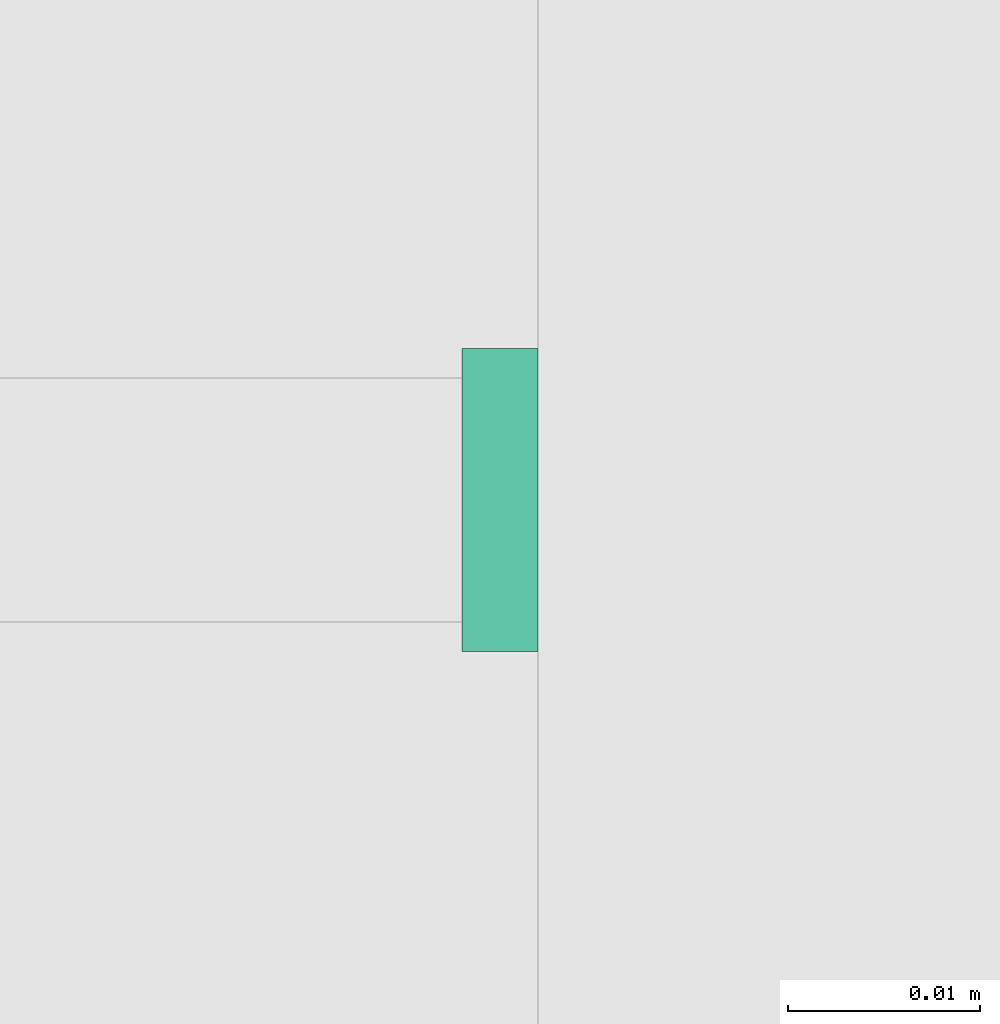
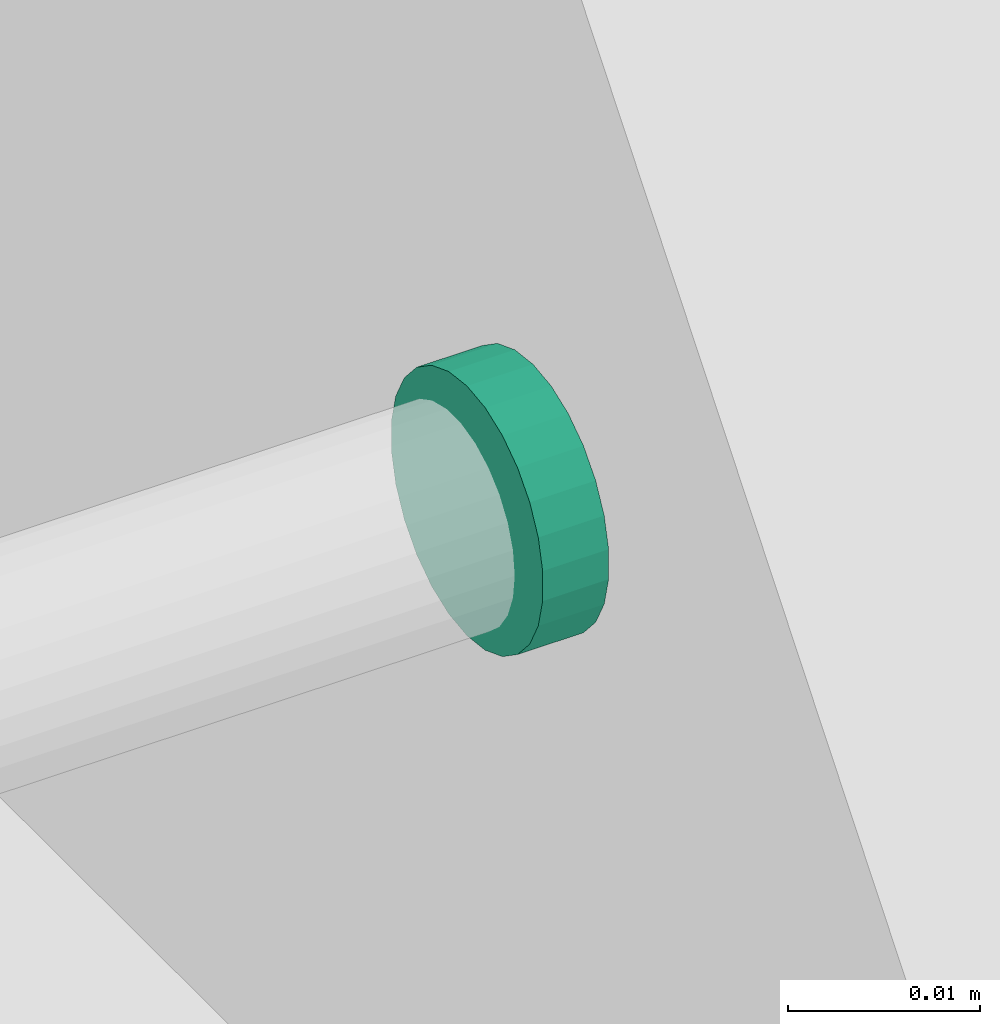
# One storey, part 10 of 24: 1 flow fitting.
"""IFC2X3 building model written with IfcOpenShell, lengths in millimetres."""

from ifc_helpers import new_model, entity, si_unit, converted_unit, derived_unit, direction, frame, origin, origin_2d_with_axis, place, context, subcontext, project, spatial, circle, extrude, source, transform, mapped, material, type_object, type_shapes, element, save


model = new_model("IFC2X3")

# Units and contexts
model_context = context("Model", 3, precision=0.01, world=origin(), true_north=direction((6.123031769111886e-17, 1.0)))
body_context = subcontext(model_context, "Body", "Model", "MODEL_VIEW")
ifc_project = project(units=[si_unit("LENGTHUNIT", "METRE", prefix="MILLI"), si_unit("AREAUNIT", "SQUARE_METRE"), si_unit("VOLUMEUNIT", "CUBIC_METRE"), converted_unit("PLANEANGLEUNIT", "DEGREE", entity("IfcRatioMeasure", 0.017453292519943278), si_unit("PLANEANGLEUNIT", "RADIAN"), dimensions=[0, 0, 0, 0, 0, 0, 0]), si_unit("MASSUNIT", "GRAM", prefix="KILO"), derived_unit("MASSDENSITYUNIT", [(si_unit("MASSUNIT", "GRAM", prefix="KILO"), 1), (si_unit("LENGTHUNIT", "METRE"), -3)]), derived_unit("MOMENTOFINERTIAUNIT", [(si_unit("LENGTHUNIT", "METRE"), 4)]), si_unit("TIMEUNIT", "SECOND"), si_unit("FREQUENCYUNIT", "HERTZ"), si_unit("THERMODYNAMICTEMPERATUREUNIT", "DEGREE_CELSIUS"), derived_unit("THERMALTRANSMITTANCEUNIT", [(si_unit("MASSUNIT", "GRAM", prefix="KILO"), 1), (si_unit("THERMODYNAMICTEMPERATUREUNIT", "KELVIN"), -1), (si_unit("TIMEUNIT", "SECOND"), -3)]), derived_unit("VOLUMETRICFLOWRATEUNIT", [(si_unit("LENGTHUNIT", "METRE"), 3), (si_unit("TIMEUNIT", "SECOND"), -1)]), derived_unit("MASSFLOWRATEUNIT", [(si_unit("MASSUNIT", "GRAM", prefix="KILO"), 1), (si_unit("TIMEUNIT", "SECOND"), -1)]), derived_unit("ROTATIONALFREQUENCYUNIT", [(si_unit("TIMEUNIT", "SECOND"), -1)]), si_unit("ELECTRICCURRENTUNIT", "AMPERE"), si_unit("ELECTRICVOLTAGEUNIT", "VOLT"), si_unit("POWERUNIT", "WATT"), si_unit("FORCEUNIT", "NEWTON", prefix="KILO"), si_unit("ILLUMINANCEUNIT", "LUX"), si_unit("LUMINOUSFLUXUNIT", "LUMEN"), si_unit("LUMINOUSINTENSITYUNIT", "CANDELA"), derived_unit("USERDEFINED", [(si_unit("MASSUNIT", "GRAM", prefix="KILO"), -1), (si_unit("LENGTHUNIT", "METRE"), -2), (si_unit("TIMEUNIT", "SECOND"), 3), (si_unit("LUMINOUSFLUXUNIT", "LUMEN"), 1)]), derived_unit("SOUNDPOWERUNIT", [(si_unit("MASSUNIT", "GRAM", prefix="KILO"), 1), (si_unit("LENGTHUNIT", "METRE"), 2), (si_unit("TIMEUNIT", "SECOND"), -3)]), derived_unit("SOUNDPRESSUREUNIT", [(si_unit("MASSUNIT", "GRAM", prefix="KILO"), 1), (si_unit("LENGTHUNIT", "METRE"), -1), (si_unit("TIMEUNIT", "SECOND"), -2)]), derived_unit("LINEARVELOCITYUNIT", [(si_unit("LENGTHUNIT", "METRE"), 1), (si_unit("TIMEUNIT", "SECOND"), -1)]), si_unit("PRESSUREUNIT", "PASCAL"), derived_unit("USERDEFINED", [(si_unit("LENGTHUNIT", "METRE"), -2), (si_unit("MASSUNIT", "GRAM", prefix="KILO"), 1), (si_unit("TIMEUNIT", "SECOND"), -2)]), derived_unit("LINEARFORCEUNIT", [(si_unit("MASSUNIT", "GRAM", prefix="KILO"), 1), (si_unit("LENGTHUNIT", "METRE"), 1), (si_unit("TIMEUNIT", "SECOND"), -2), (si_unit("LENGTHUNIT", "METRE"), -1)]), derived_unit("PLANARFORCEUNIT", [(si_unit("MASSUNIT", "GRAM", prefix="KILO"), 1), (si_unit("LENGTHUNIT", "METRE"), 1), (si_unit("TIMEUNIT", "SECOND"), -2), (si_unit("LENGTHUNIT", "METRE"), -2)])], contexts=[model_context])

# Site, building, storey
site_placement = place(None, origin())
site = spatial("IfcSite", under=ifc_project, at=site_placement, Name="Default", CompositionType="ELEMENT")
building_placement = place(site_placement, origin())
building = spatial("IfcBuilding", under=site, at=building_placement, CompositionType="ELEMENT")
storey_placement = place(building_placement, origin())
storey = spatial("IfcBuildingStorey", under=building, at=storey_placement, Name="Level 1", CompositionType="ELEMENT", Elevation=0.0)

# Flow fitting
ifc_material = material(Name="<Unnamed>")
pipe_fitting_type = type_object("IfcPipeFittingType", Name="M_Transition - Generic:Standard:Standard : M_Transition - Generic:Standard", PredefinedType="NOTDEFINED", material=ifc_material)
shared_shape = source(origin(), body_context, "Body", "SweptSolid", [
    extrude(circle(Radius=7.937500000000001, at=origin_2d_with_axis()), frame((-6731.64585241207, -2522.80352202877, 2710.0), z_axis=(1.0, 0.0, 0.0), x_axis=(0.0, 0.0, 1.0)), (0.0, 0.0, 1.0), 3.9687499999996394),
])
type_shapes(pipe_fitting_type, [shared_shape])
flow_fitting_placement = place(storey_placement, origin())
element("IfcFlowFitting", 1, at=flow_fitting_placement, inside=storey, type_object=pipe_fitting_type, material=ifc_material, Name="M_Transition - Generic:Standard:Standard : M_Transition - Generic:Standard:Standard:Standard : M_Transition - Generic:Standard : M_Transition - Generic:Standard:Standard : M_Transition - Generic:Standard", ObjectType="M_Transition - Generic:Standard:Standard : M_Transition - Generic:Standard:Standard:Standard : M_Transition - Generic:Standard : M_Transition - Generic:Standard:Standard : M_Transition - Generic:Standard", context=body_context, shape_type="MappedRepresentation", body=[
    mapped(shared_shape, transform((0.0, 0.0, 0.0), scale=1.0)),
])

save(model, "model.ifc")
